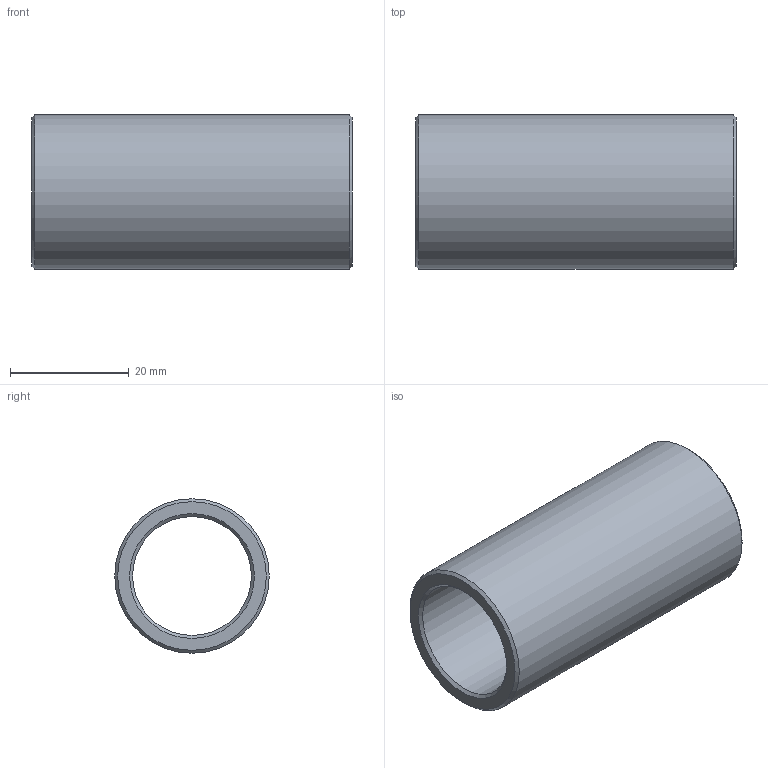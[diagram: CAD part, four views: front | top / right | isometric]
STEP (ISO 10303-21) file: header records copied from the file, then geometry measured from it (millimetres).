
FILE_DESCRIPTION(/* description */ (''),/* implementation_level */ '2;1');
FILE_NAME(/* name */ '',/* time_stamp */ '2024-09-10T16:17:43+09:00',/* author */ ('jhkim'),/* organization */ (''),/* preprocessor_version */ 'ST-DEVELOPER v20',/* originating_system */ 'Autodesk Inventor 2025',/* authorisation */ '');
FILE_SCHEMA (('AUTOMOTIVE_DESIGN { 1 0 10303 214 3 1 1 }'));
Length unit declared in the file: millimetre
Products named in the file (1): 칼라
Bounding box: 54 x 26 x 26 mm (x, y, z)
Volume: 11669.4 mm3; surface area: 8152.6 mm2
Topology: 1 solids, 1 shells, 8 faces, 14 edges, 8 vertices
Faces by surface type: cone 4, cylinder 2, plane 2
Full cylindrical faces by diameter (mm): 20 x1, 26 x1
Entity records: 241 total; most frequent: DIRECTION 40, CARTESIAN_POINT 31, ORIENTED_EDGE 28, AXIS2_PLACEMENT_3D 17, EDGE_CURVE 14, EDGE_LOOP 10, FACE_OUTER_BOUND 8, CIRCLE 8
